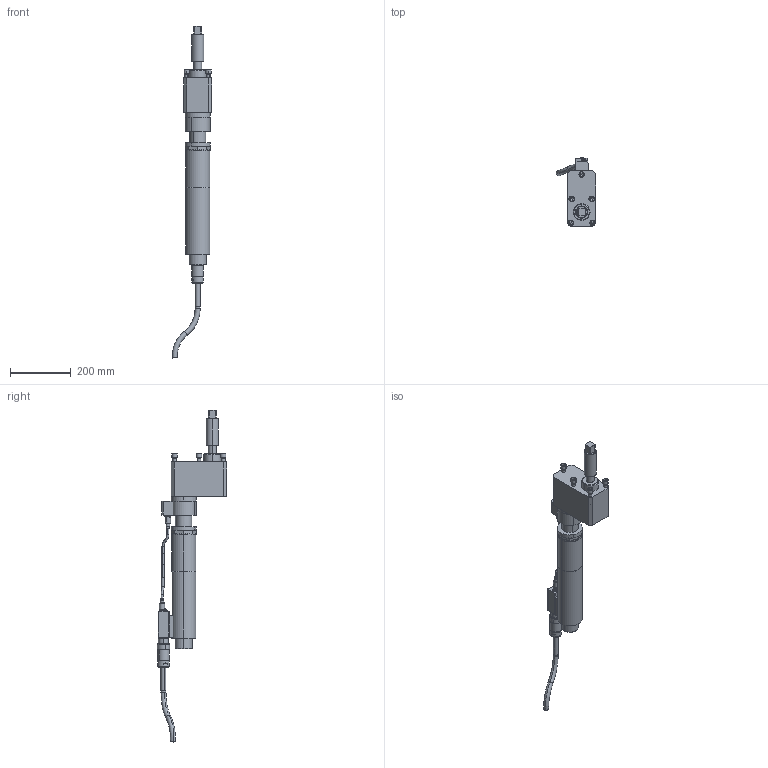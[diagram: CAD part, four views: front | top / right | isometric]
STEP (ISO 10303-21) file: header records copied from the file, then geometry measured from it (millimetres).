
FILE_DESCRIPTION(('CATIA V5 STEP'),'2;1');
FILE_NAME('O:\3D-Schrauber\stp\7920683_ECR344_DWR450_AO3425_AllCATPart.stp','2010-05-05T11:17:04+00:00',('none'),('none'),'CATIA Version 5 Release 19 SP 3 (IN-10)','CATIA V5 STEP AP214','none');
FILE_SCHEMA(('AUTOMOTIVE_DESIGN { 1 0 10303 214 1 1 1 1 }'));
Length unit declared in the file: millimetre
Products named in the file (1): 7920683_ECR344_DWR450_AO3425_AllCATPart
Bounding box: 130.32 x 227.91 x 1094.16 mm (x, y, z)
Volume: 4988592.7 mm3; surface area: 380339.6 mm2
Topology: 19 solids, 19 shells, 465 faces, 1019 edges, 644 vertices
Faces by surface type: plane 192, cylinder 165, cone 64, torus 44
Entity records: 12202 total; most frequent: CARTESIAN_POINT 2443, ORIENTED_EDGE 2038, DIRECTION 1673, EDGE_CURVE 1019, AXIS2_PLACEMENT_3D 848, VERTEX_POINT 644, EDGE_LOOP 517, CIRCLE 492
